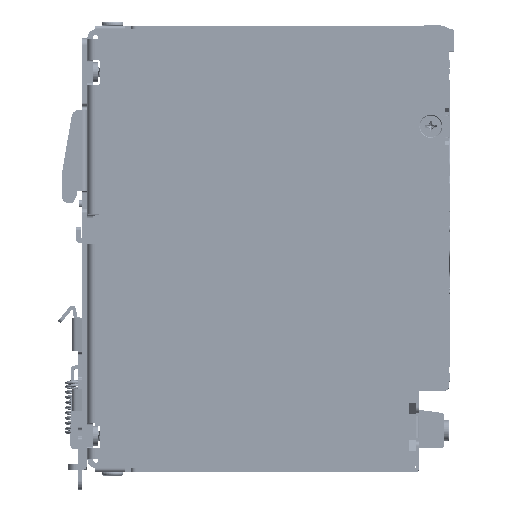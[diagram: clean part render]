
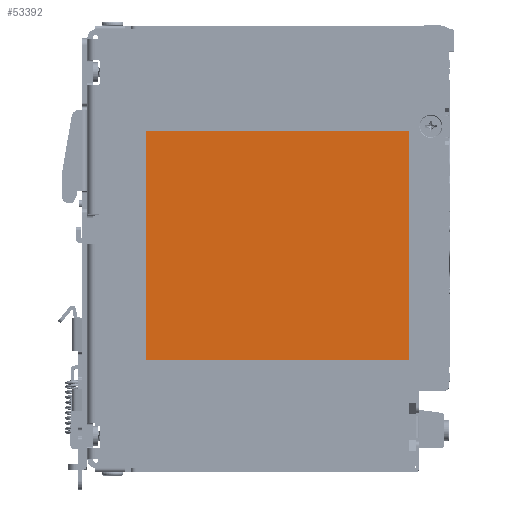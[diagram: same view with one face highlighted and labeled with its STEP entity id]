
A CAD part, top view. The second image highlights one B-rep face of the part: STEP entity #53392.
In plain terms, the highlighted planar face has unit normal (0, 0, 1).
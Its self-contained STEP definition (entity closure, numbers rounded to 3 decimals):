
#53277=DIRECTION('',(-1.,0.,0.));
#53278=VECTOR('',#53277,73.);
#53279=CARTESIAN_POINT('',(0.,0.,0.));
#53280=LINE('',#53279,#53278);
#53284=DIRECTION('',(0.,1.,0.));
#53285=VECTOR('',#53284,63.5);
#53286=CARTESIAN_POINT('',(0.,-63.5,0.));
#53287=LINE('',#53286,#53285);
#53291=DIRECTION('',(1.,0.,0.));
#53292=VECTOR('',#53291,73.);
#53293=CARTESIAN_POINT('',(-73.,-63.5,0.));
#53294=LINE('',#53293,#53292);
#53298=DIRECTION('',(0.,-1.,0.));
#53299=VECTOR('',#53298,63.5);
#53300=CARTESIAN_POINT('',(-73.,0.,0.));
#53301=LINE('',#53300,#53299);
#53361=CARTESIAN_POINT('',(0.,0.,0.));
#53362=CARTESIAN_POINT('',(-73.,0.,0.));
#53363=VERTEX_POINT('',#53361);
#53364=VERTEX_POINT('',#53362);
#53365=CARTESIAN_POINT('',(-73.,-63.5,0.));
#53366=VERTEX_POINT('',#53365);
#53367=CARTESIAN_POINT('',(0.,-63.5,0.));
#53368=VERTEX_POINT('',#53367);
#53377=CARTESIAN_POINT('',(0.,0.,0.));
#53378=DIRECTION('',(0.,0.,1.));
#53379=DIRECTION('',(1.,0.,0.));
#53380=AXIS2_PLACEMENT_3D('',#53377,#53378,#53379);
#53381=PLANE('',#53380);
#53383=ORIENTED_EDGE('',*,*,#53382,.F.);
#53385=ORIENTED_EDGE('',*,*,#53384,.F.);
#53387=ORIENTED_EDGE('',*,*,#53386,.F.);
#53389=ORIENTED_EDGE('',*,*,#53388,.F.);
#53390=EDGE_LOOP('',(#53383,#53385,#53387,#53389));
#53391=FACE_OUTER_BOUND('',#53390,.F.);
#53382=EDGE_CURVE('',#53363,#53364,#53280,.T.);
#53384=EDGE_CURVE('',#53368,#53363,#53287,.T.);
#53386=EDGE_CURVE('',#53366,#53368,#53294,.T.);
#53388=EDGE_CURVE('',#53364,#53366,#53301,.T.);
#53392=ADVANCED_FACE('',(#53391),#53381,.T.);
